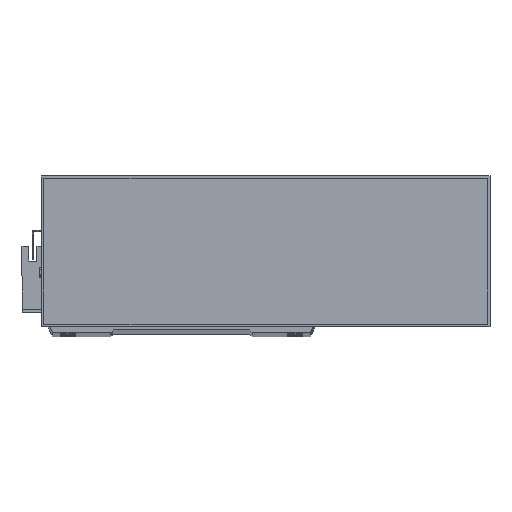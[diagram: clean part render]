
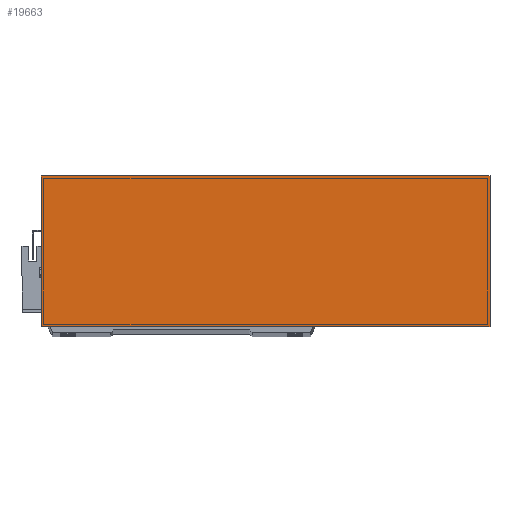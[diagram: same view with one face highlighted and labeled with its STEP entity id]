
A CAD part, top view. The second image highlights one B-rep face of the part: STEP entity #19663.
In plain terms, the highlighted planar face has unit normal (0, 0, 1).
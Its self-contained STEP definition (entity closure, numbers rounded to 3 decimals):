
#83 = VECTOR ( 'NONE', #26007, 1000. ) ;
#849 = LINE ( 'NONE', #21535, #83 ) ;
#1413 = EDGE_CURVE ( 'NONE', #18617, #13415, #849, .T. ) ;
#2939 = DIRECTION ( 'NONE',  ( 1., 0., 0. ) ) ;
#3049 = DIRECTION ( 'NONE',  ( -1., 0., 0. ) ) ;
#3320 = ORIENTED_EDGE ( 'NONE', *, *, #15701, .T. ) ;
#3341 = EDGE_LOOP ( 'NONE', ( #12553, #3320, #14707, #27724 ) ) ;
#5067 = VERTEX_POINT ( 'NONE', #19368 ) ;
#5810 = VECTOR ( 'NONE', #15254, 1000. ) ;
#8603 = CARTESIAN_POINT ( 'NONE',  ( 0., 0., 50. ) ) ;
#8872 = CARTESIAN_POINT ( 'NONE',  ( 277., 0., 50. ) ) ;
#8974 = EDGE_CURVE ( 'NONE', #18594, #5067, #22970, .T. ) ;
#9889 = AXIS2_PLACEMENT_3D ( 'NONE', #8603, #10972, #27259 ) ;
#9949 = CARTESIAN_POINT ( 'NONE',  ( 0., 93., 50. ) ) ;
#10972 = DIRECTION ( 'NONE',  ( 0., 0., -1. ) ) ;
#12553 = ORIENTED_EDGE ( 'NONE', *, *, #1413, .T. ) ;
#13313 = CARTESIAN_POINT ( 'NONE',  ( 0., 0., 50. ) ) ;
#13415 = VERTEX_POINT ( 'NONE', #13313 ) ;
#13761 = CARTESIAN_POINT ( 'NONE',  ( 0., 93., 50. ) ) ;
#14707 = ORIENTED_EDGE ( 'NONE', *, *, #8974, .T. ) ;
#15254 = DIRECTION ( 'NONE',  ( 0., 1., 0. ) ) ;
#15701 = EDGE_CURVE ( 'NONE', #13415, #18594, #21679, .T. ) ;
#15758 = EDGE_CURVE ( 'NONE', #5067, #18617, #17587, .T. ) ;
#16856 = VECTOR ( 'NONE', #3049, 1000. ) ;
#16938 = CARTESIAN_POINT ( 'NONE',  ( 0., 0., 50. ) ) ;
#17587 = LINE ( 'NONE', #9949, #16856 ) ;
#18594 = VERTEX_POINT ( 'NONE', #8872 ) ;
#18617 = VERTEX_POINT ( 'NONE', #13761 ) ;
#19368 = CARTESIAN_POINT ( 'NONE',  ( 277., 93., 50. ) ) ;
#19663 = ADVANCED_FACE ( 'NONE', ( #19943 ), #22554, .F. ) ;
#19943 = FACE_OUTER_BOUND ( 'NONE', #3341, .T. ) ;
#21535 = CARTESIAN_POINT ( 'NONE',  ( 0., 0., 50. ) ) ;
#21679 = LINE ( 'NONE', #16938, #23121 ) ;
#22554 = PLANE ( 'NONE',  #9889 ) ;
#22970 = LINE ( 'NONE', #29235, #5810 ) ;
#23121 = VECTOR ( 'NONE', #2939, 1000. ) ;
#26007 = DIRECTION ( 'NONE',  ( 0., -1., 0. ) ) ;
#27259 = DIRECTION ( 'NONE',  ( -1., 0., 0. ) ) ;
#27724 = ORIENTED_EDGE ( 'NONE', *, *, #15758, .T. ) ;
#29235 = CARTESIAN_POINT ( 'NONE',  ( 277., 0., 50. ) ) ;
